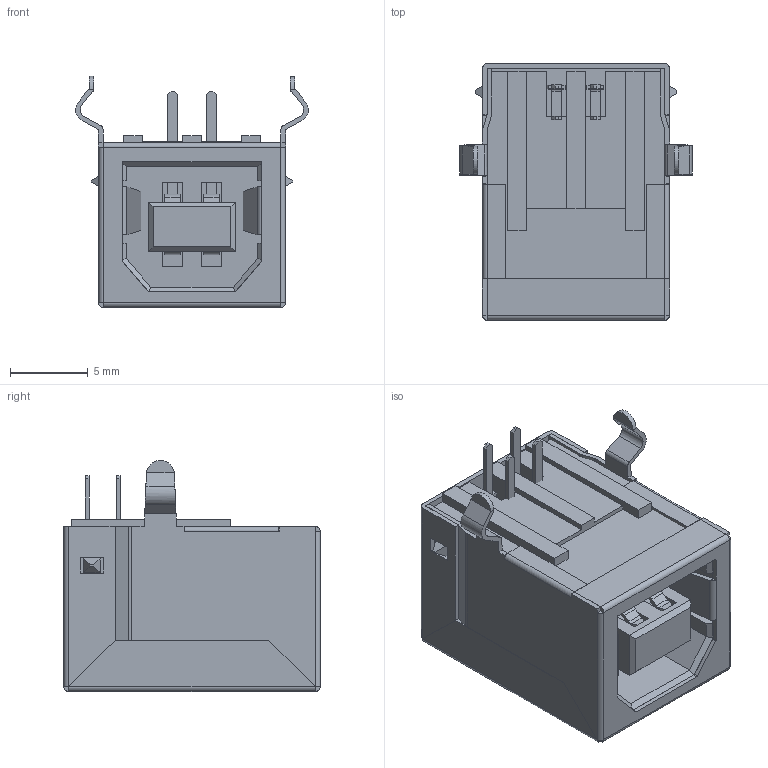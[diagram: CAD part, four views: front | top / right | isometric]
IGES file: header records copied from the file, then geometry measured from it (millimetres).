
Global section: file name: Filename.iges; native system: Open CASCADE 7.3; preprocessor: Open CASCADE IGES processor 7.3; date: 20201209.121357; units: millimetre
Bounding box: 14.97 x 16.5 x 14.86 mm (x, y, z)
Surface area: 3634.6 mm2 (no closed solid volume)
Topology: 0 solids, 0 shells, 559 faces, 2976 edges, 2976 vertices
Faces by surface type: plane 459, revolution 100
